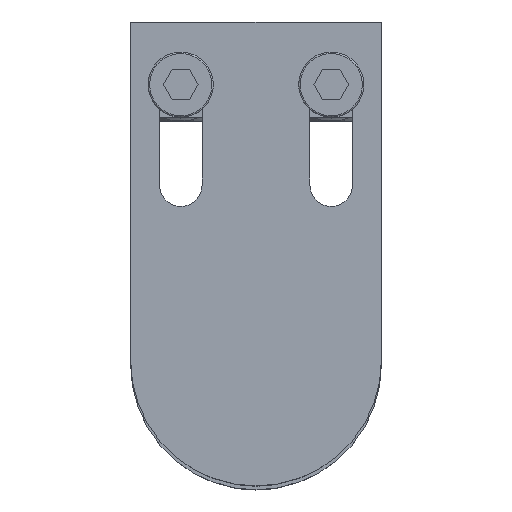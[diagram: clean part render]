
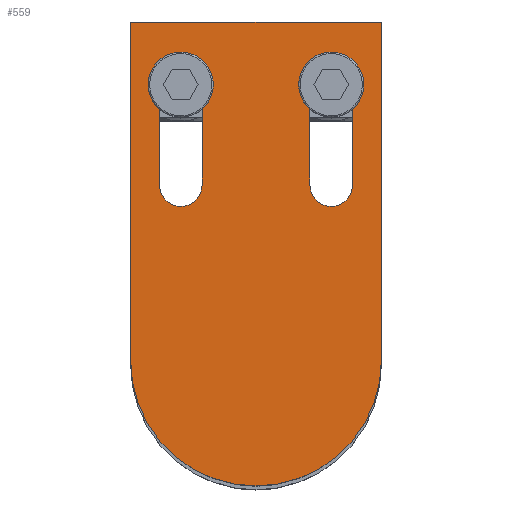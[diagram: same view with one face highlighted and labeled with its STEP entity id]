
A CAD part, top view. The second image highlights one B-rep face of the part: STEP entity #559.
In plain terms, the highlighted planar face has unit normal (0, 0, 1) as drawn and (0, 0, -1) by its records, which use the part's own axes.
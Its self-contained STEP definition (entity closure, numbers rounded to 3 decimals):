
#15 = EDGE_CURVE ( 'NONE', #3492, #4279, #95, .T. ) ;
#63 = VERTEX_POINT ( 'NONE', #726 ) ;
#85 = DIRECTION ( 'NONE',  ( 0., 1., 0. ) ) ;
#95 = LINE ( 'NONE', #2333, #1757 ) ;
#108 = CARTESIAN_POINT ( 'NONE',  ( -19.25, 55., -6. ) ) ;
#126 = DIRECTION ( 'NONE',  ( 0., -1., 0. ) ) ;
#161 = FACE_BOUND ( 'NONE', #4028, .T. ) ;
#274 = AXIS2_PLACEMENT_3D ( 'NONE', #4583, #561, #3037 ) ;
#319 = DIRECTION ( 'NONE',  ( 0., 0., 1. ) ) ;
#374 = VERTEX_POINT ( 'NONE', #108 ) ;
#464 = CARTESIAN_POINT ( 'NONE',  ( -15., 35., -6. ) ) ;
#520 = EDGE_CURVE ( 'NONE', #1900, #3492, #4397, .T. ) ;
#559 = ADVANCED_FACE ( 'NONE', ( #3266, #161, #2084 ), #4235, .F. ) ;
#561 = DIRECTION ( 'NONE',  ( 0., 0., 1. ) ) ;
#726 = CARTESIAN_POINT ( 'NONE',  ( -10.75, 35., -6. ) ) ;
#761 = CARTESIAN_POINT ( 'NONE',  ( 15., 35., -6. ) ) ;
#765 = ORIENTED_EDGE ( 'NONE', *, *, #3503, .T. ) ;
#777 = CARTESIAN_POINT ( 'NONE',  ( 19.25, 35., -6. ) ) ;
#786 = CARTESIAN_POINT ( 'NONE',  ( -19.25, 35., -6. ) ) ;
#816 = DIRECTION ( 'NONE',  ( 0., -1., 0. ) ) ;
#818 = DIRECTION ( 'NONE',  ( 1., 0., 0. ) ) ;
#838 = EDGE_CURVE ( 'NONE', #5006, #2536, #5178, .T. ) ;
#856 = CARTESIAN_POINT ( 'NONE',  ( -25., 0., -6. ) ) ;
#910 = EDGE_CURVE ( 'NONE', #3221, #63, #4999, .T. ) ;
#977 = DIRECTION ( 'NONE',  ( 1., 0., 0. ) ) ;
#979 = ORIENTED_EDGE ( 'NONE', *, *, #910, .T. ) ;
#1130 = LINE ( 'NONE', #1267, #1394 ) ;
#1250 = ORIENTED_EDGE ( 'NONE', *, *, #2187, .F. ) ;
#1267 = CARTESIAN_POINT ( 'NONE',  ( -10.75, 35., -6. ) ) ;
#1299 = ORIENTED_EDGE ( 'NONE', *, *, #4013, .T. ) ;
#1394 = VECTOR ( 'NONE', #3333, 1000. ) ;
#1506 = EDGE_CURVE ( 'NONE', #1787, #5006, #3636, .T. ) ;
#1512 = AXIS2_PLACEMENT_3D ( 'NONE', #3181, #2376, #2766 ) ;
#1546 = AXIS2_PLACEMENT_3D ( 'NONE', #2213, #2235, #977 ) ;
#1630 = AXIS2_PLACEMENT_3D ( 'NONE', #761, #3585, #4842 ) ;
#1652 = CARTESIAN_POINT ( 'NONE',  ( 10.75, 35., -6. ) ) ;
#1664 = CARTESIAN_POINT ( 'NONE',  ( -19.25, 35., -6. ) ) ;
#1677 = CARTESIAN_POINT ( 'NONE',  ( 25., 67.5, -6. ) ) ;
#1721 = ORIENTED_EDGE ( 'NONE', *, *, #2803, .F. ) ;
#1757 = VECTOR ( 'NONE', #3493, 1000. ) ;
#1787 = VERTEX_POINT ( 'NONE', #2680 ) ;
#1900 = VERTEX_POINT ( 'NONE', #3479 ) ;
#1957 = VECTOR ( 'NONE', #816, 1000. ) ;
#2059 = ORIENTED_EDGE ( 'NONE', *, *, #838, .T. ) ;
#2084 = FACE_OUTER_BOUND ( 'NONE', #4559, .T. ) ;
#2146 = DIRECTION ( 'NONE',  ( -1., 0., 0. ) ) ;
#2154 = LINE ( 'NONE', #1664, #4850 ) ;
#2168 = ORIENTED_EDGE ( 'NONE', *, *, #15, .F. ) ;
#2175 = CARTESIAN_POINT ( 'NONE',  ( 19.25, 35., -6. ) ) ;
#2187 = EDGE_CURVE ( 'NONE', #4279, #4480, #2216, .T. ) ;
#2213 = CARTESIAN_POINT ( 'NONE',  ( 0., 0., -6. ) ) ;
#2216 = LINE ( 'NONE', #1677, #5232 ) ;
#2220 = CIRCLE ( 'NONE', #1630, 4.25 ) ;
#2235 = DIRECTION ( 'NONE',  ( 0., 0., 1. ) ) ;
#2333 = CARTESIAN_POINT ( 'NONE',  ( 25., 0., -6. ) ) ;
#2376 = DIRECTION ( 'NONE',  ( 0., 0., 1. ) ) ;
#2423 = ORIENTED_EDGE ( 'NONE', *, *, #520, .F. ) ;
#2501 = CARTESIAN_POINT ( 'NONE',  ( 10.75, 55., -6. ) ) ;
#2515 = DIRECTION ( 'NONE',  ( 1., 0., 0. ) ) ;
#2536 = VERTEX_POINT ( 'NONE', #4685 ) ;
#2680 = CARTESIAN_POINT ( 'NONE',  ( 19.25, 55., -6. ) ) ;
#2705 = VECTOR ( 'NONE', #85, 1000. ) ;
#2721 = ORIENTED_EDGE ( 'NONE', *, *, #1506, .T. ) ;
#2732 = ORIENTED_EDGE ( 'NONE', *, *, #3987, .T. ) ;
#2766 = DIRECTION ( 'NONE',  ( -1., 0., 0. ) ) ;
#2803 = EDGE_CURVE ( 'NONE', #4480, #1900, #4293, .T. ) ;
#2986 = EDGE_CURVE ( 'NONE', #63, #5206, #1130, .T. ) ;
#3004 = ORIENTED_EDGE ( 'NONE', *, *, #2986, .T. ) ;
#3037 = DIRECTION ( 'NONE',  ( 1., 0., 0. ) ) ;
#3083 = CARTESIAN_POINT ( 'NONE',  ( -25., 67.5, -6. ) ) ;
#3181 = CARTESIAN_POINT ( 'NONE',  ( 15., 55., -6. ) ) ;
#3221 = VERTEX_POINT ( 'NONE', #786 ) ;
#3266 = FACE_BOUND ( 'NONE', #5042, .T. ) ;
#3333 = DIRECTION ( 'NONE',  ( 0., 1., 0. ) ) ;
#3385 = CIRCLE ( 'NONE', #3542, 4.25 ) ;
#3479 = CARTESIAN_POINT ( 'NONE',  ( -25., 0., -6. ) ) ;
#3492 = VERTEX_POINT ( 'NONE', #3756 ) ;
#3493 = DIRECTION ( 'NONE',  ( 0., 1., 0. ) ) ;
#3503 = EDGE_CURVE ( 'NONE', #374, #3221, #2154, .T. ) ;
#3542 = AXIS2_PLACEMENT_3D ( 'NONE', #3997, #319, #818 ) ;
#3585 = DIRECTION ( 'NONE',  ( 0., 0., 1. ) ) ;
#3636 = CIRCLE ( 'NONE', #1512, 4.25 ) ;
#3756 = CARTESIAN_POINT ( 'NONE',  ( 25., 0., -6. ) ) ;
#3782 = ORIENTED_EDGE ( 'NONE', *, *, #3861, .T. ) ;
#3861 = EDGE_CURVE ( 'NONE', #5206, #374, #3385, .T. ) ;
#3987 = EDGE_CURVE ( 'NONE', #2536, #4957, #2220, .T. ) ;
#3997 = CARTESIAN_POINT ( 'NONE',  ( -15., 55., -6. ) ) ;
#4013 = EDGE_CURVE ( 'NONE', #4957, #1787, #4396, .T. ) ;
#4028 = EDGE_LOOP ( 'NONE', ( #765, #979, #3004, #3782 ) ) ;
#4235 = PLANE ( 'NONE',  #274 ) ;
#4279 = VERTEX_POINT ( 'NONE', #4581 ) ;
#4293 = LINE ( 'NONE', #856, #4562 ) ;
#4382 = CARTESIAN_POINT ( 'NONE',  ( -10.75, 55., -6. ) ) ;
#4396 = LINE ( 'NONE', #777, #2705 ) ;
#4397 = CIRCLE ( 'NONE', #1546, 25. ) ;
#4480 = VERTEX_POINT ( 'NONE', #3083 ) ;
#4488 = DIRECTION ( 'NONE',  ( 0., -1., 0. ) ) ;
#4502 = DIRECTION ( 'NONE',  ( 0., 0., 1. ) ) ;
#4559 = EDGE_LOOP ( 'NONE', ( #2423, #1721, #1250, #2168 ) ) ;
#4562 = VECTOR ( 'NONE', #4488, 1000. ) ;
#4581 = CARTESIAN_POINT ( 'NONE',  ( 25., 67.5, -6. ) ) ;
#4583 = CARTESIAN_POINT ( 'NONE',  ( 0., 0., -6. ) ) ;
#4685 = CARTESIAN_POINT ( 'NONE',  ( 10.75, 35., -6. ) ) ;
#4842 = DIRECTION ( 'NONE',  ( -1., 0., 0. ) ) ;
#4850 = VECTOR ( 'NONE', #126, 1000. ) ;
#4886 = AXIS2_PLACEMENT_3D ( 'NONE', #464, #4502, #2515 ) ;
#4957 = VERTEX_POINT ( 'NONE', #2175 ) ;
#4999 = CIRCLE ( 'NONE', #4886, 4.25 ) ;
#5006 = VERTEX_POINT ( 'NONE', #2501 ) ;
#5042 = EDGE_LOOP ( 'NONE', ( #2059, #2732, #1299, #2721 ) ) ;
#5178 = LINE ( 'NONE', #1652, #1957 ) ;
#5206 = VERTEX_POINT ( 'NONE', #4382 ) ;
#5232 = VECTOR ( 'NONE', #2146, 1000. ) ;
